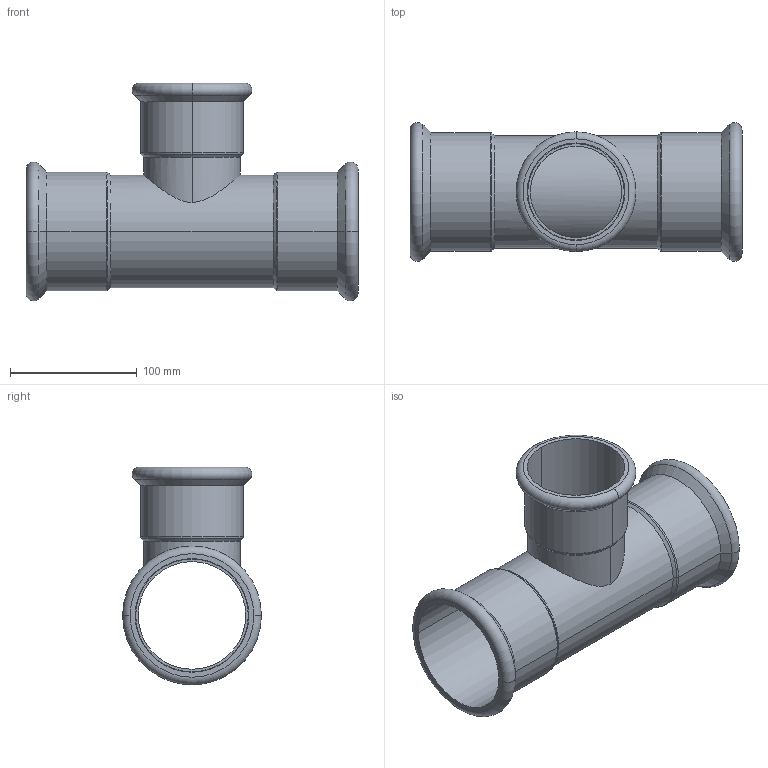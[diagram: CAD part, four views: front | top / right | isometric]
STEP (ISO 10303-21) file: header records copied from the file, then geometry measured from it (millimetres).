
FILE_DESCRIPTION(('CoCreate Modeling STEP Export'),'2;1');
FILE_NAME('C1415 88.9x76.1x88.9.stp','2014-11-12T10:55:10',(''),(''),'CoCreate Modeling STEP processor for AP214 (Solid Model)','CoCreate Modeling 17.00A 17-Jun-2010 (C) Parametric Technology GmbH','');
FILE_SCHEMA(('AUTOMOTIVE_DESIGN { 1 0 10303 214 1 1 1 1 }'));
Length unit declared in the file: millimetre
Products named in the file (2): C1415_89x76x89
Assembly tree (1 placements, depth 2):
  C1415_89x76x89
    C1415_89x76x89
Bounding box: 262 x 109.48 x 171.74 mm (x, y, z)
Volume: 265641.8 mm3; surface area: 199826.7 mm2
Topology: 1 solids, 1 shells, 60 faces, 124 edges, 74 vertices
Faces by surface type: cylinder 27, torus 12, cone 12, plane 9
Entity records: 2954 total; most frequent: CARTESIAN_POINT 1813, ORIENTED_EDGE 248, DIRECTION 202, EDGE_CURVE 124, AXIS2_PLACEMENT_3D 82, VERTEX_POINT 74, EDGE_LOOP 70, FACE_OUTER_BOUND 60
